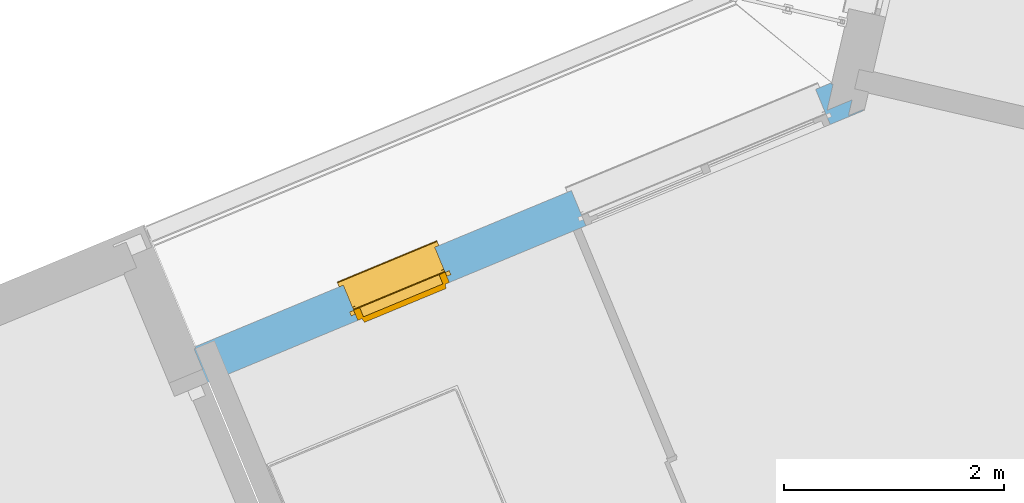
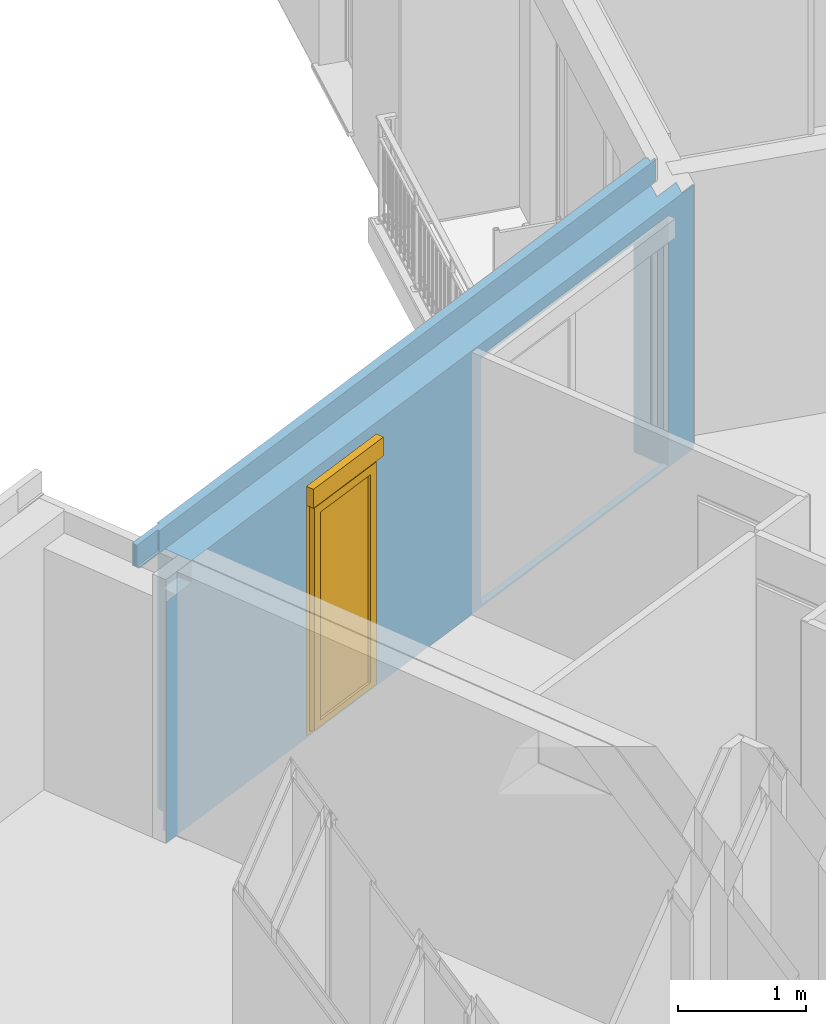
# One storey, part 14 of 90: 1 window, 2 openings, plus 1 element that does not belong to this part.
"""IFC2X3 building model written with IfcOpenShell, lengths in metres."""

from ifc_helpers import new_model, entity, si_unit, converted_unit, derived_unit, money_unit, direction, frame, origin_with_axes, place, context, subcontext, project, spatial, open_shell, faceted_brep, surface_model, material, material_list, type_object, element, fill, save


model = new_model("IFC2X3")

# Units and contexts
model_context = context("Model", 3, precision=1e-05, world=origin_with_axes(), true_north=direction((0.0, 1.0)))
body_context = subcontext(model_context, "Body", "Model", "MODEL_VIEW")
ifc_project = project(units=[si_unit("LENGTHUNIT", "METRE"), si_unit("AREAUNIT", "SQUARE_METRE"), si_unit("VOLUMEUNIT", "CUBIC_METRE"), converted_unit("PLANEANGLEUNIT", "DEGREE", entity("IfcPlaneAngleMeasure", 0.0174532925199), si_unit("PLANEANGLEUNIT", "RADIAN"), dimensions=[0, 0, 0, 0, 0, 0, 0]), si_unit("SOLIDANGLEUNIT", "STERADIAN"), money_unit("EUR"), converted_unit("TIMEUNIT", "Year", entity("IfcTimeMeasure", 31556926.0), si_unit("TIMEUNIT", "SECOND"), dimensions=[0, 0, 1, 0, 0, 0, 0]), si_unit("MASSUNIT", "GRAM", prefix="KILO"), si_unit("THERMODYNAMICTEMPERATUREUNIT", "DEGREE_CELSIUS"), si_unit("LUMINOUSINTENSITYUNIT", "LUMEN"), si_unit("ENERGYUNIT", "JOULE", prefix="MEGA"), derived_unit("THERMALCONDUCTANCEUNIT", [(si_unit("POWERUNIT", "WATT"), 1), (si_unit("LENGTHUNIT", "METRE"), -1), (si_unit("THERMODYNAMICTEMPERATUREUNIT", "KELVIN"), -1)]), derived_unit("SPECIFICHEATCAPACITYUNIT", [(si_unit("ENERGYUNIT", "JOULE"), 1), (si_unit("MASSUNIT", "GRAM", prefix="KILO"), -1), (si_unit("THERMODYNAMICTEMPERATUREUNIT", "KELVIN"), -1)]), derived_unit("MASSDENSITYUNIT", [(si_unit("MASSUNIT", "GRAM", prefix="KILO"), 1), (si_unit("VOLUMEUNIT", "CUBIC_METRE"), -1)])], contexts=[model_context])

# Site, building, storey
site_placement = place(None, origin_with_axes())
site = spatial("IfcSite", under=ifc_project, at=site_placement, Name="Site", CompositionType="ELEMENT")
building_placement = place(site_placement, origin_with_axes())
building = spatial("IfcBuilding", under=site, at=building_placement, Name="Bâtiment", CompositionType="ELEMENT")
storey_placement = place(building_placement, frame((0.0, 0.0, 2.72), z_axis=(0.0, 0.0, 1.0), x_axis=(1.0, 0.0, 0.0)))
storey = spatial("IfcBuildingStorey", under=building, at=storey_placement, Name="R+1", CompositionType="ELEMENT", Elevation=2.72)

# Wall, openings, window
ifc_material_1 = material(Name="Finition int - Plaque de plâtre")
ifc_material_2 = material(Name="Isolation - Polystyrène extrudé")
ifc_material_3 = material(Name="Bloc ELITHERM")
ifc_material_4 = material(Name="Isolation - Polystyrène expansé")
ifc_material_5 = material(Name="Mortier")
ifc_material_6 = material(Name="Béton cellulaire")
ifc_material_7 = material(Name="Finition ext - Crépis")
ifc_material_list = material_list([ifc_material_1, ifc_material_2, ifc_material_3, ifc_material_4, ifc_material_5, ifc_material_6, ifc_material_7])
wall_type = type_object("IfcWallType", Name="Mur ALKERN + planelle 21 345 x 2720", PredefinedType="USERDEFINED")
wall_placement = place(storey_placement, frame((-19.7780456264, -12.7581307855, 0.0), z_axis=(0.0, 0.0, 1.0), x_axis=(-0.923701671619, -0.383112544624, 0.0)))
wall = element("IfcWall", 1, at=wall_placement, inside=storey, type_object=wall_type, material=ifc_material_list, Name="Mue bloc ALKERN isolé", ObjectType="SOLIDWALL", context=body_context, shape_type="Brep", body=[
    faceted_brep([(-0.165315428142, 0.34499998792, 2.51), (6.27230078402, 0.344999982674, 2.51000000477), (6.27230078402, 0.344999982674, 2.3), (6.34030078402, 0.344999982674, 2.3), (6.59230079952, 0.344999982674, 2.3), (6.59230079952, 0.344999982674, 0.0), (-0.165315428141, 0.344999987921, 0.0), (2.55854389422, 0.344999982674, 2.22), (2.55854389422, 0.344999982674, 2.4), (0.158543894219, 0.344999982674, 2.4), (0.158543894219, 0.344999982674, 2.22), (0.158543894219, 0.344999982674, 0.02), (2.55854389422, 0.344999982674, 0.02), (4.80086941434, 0.344999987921, 2.22), (4.80086941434, 0.344999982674, 2.4), (3.90086941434, 0.344999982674, 2.4), (3.90086941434, 0.344999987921, 2.22), (3.90086941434, 0.344999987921, 0.02), (4.80086941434, 0.344999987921, 0.02), (-0.172454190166, 0.335000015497, 2.51), (6.27230078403, 0.335000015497, 2.51000000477), (6.27230078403, 0.335000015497, 2.3), (6.34030078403, 0.335000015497, 2.3), (6.59230079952, 0.335000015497, 2.3), (6.59230079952, 0.335000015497, 0.0), (-0.172454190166, 0.335000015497, 0.0), (2.55854389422, 0.335000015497, 2.22), (2.55854389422, 0.335000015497, 2.4), (0.158543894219, 0.335000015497, 2.4), (0.158543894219, 0.335000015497, 2.22), (0.158543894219, 0.335000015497, 0.02), (2.55854389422, 0.335000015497, 0.02), (4.80086941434, 0.335000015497, 2.22), (4.80086941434, 0.335000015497, 2.4), (3.90086941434, 0.335000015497, 2.4), (3.90086941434, 0.335000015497, 2.22), (3.90086941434, 0.335000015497, 0.02), (4.80086941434, 0.335000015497, 0.02)], [[[0, 1, 2, 3, 4, 5, 6], [7, 8, 9, 10, 11, 12], [13, 14, 15, 16, 17, 18]], [[1, 0, 19, 20]], [[2, 1, 20, 21]], [[22, 3, 2, 21]], [[4, 3, 22, 23]], [[24, 5, 4, 23]], [[24, 25, 6, 5]], [[6, 25, 19, 0]], [[26, 27, 8, 7]], [[27, 28, 9, 8]], [[28, 29, 10, 9]], [[30, 11, 10, 29]], [[31, 12, 11, 30]], [[12, 31, 26, 7]], [[14, 13, 32, 33]], [[15, 14, 33, 34]], [[16, 15, 34, 35]], [[16, 35, 36, 17]], [[17, 36, 37, 18]], [[32, 13, 18, 37]], [[25, 24, 23, 22, 21, 20, 19], [27, 26, 31, 30, 29, 28], [33, 32, 37, 36, 35, 34]]]),
    faceted_brep([(3.90086941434, 0.245, 0.02), (3.90086941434, 0.286, 0.02), (3.90086941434, 0.335000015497, 0.02), (3.90086941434, 0.335000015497, 2.22), (3.90086941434, 0.245, 2.22), (3.90086941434, 0.215000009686, 0.02), (3.90086941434, 0.215000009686, 0.0), (3.90086941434, 0.286, 0.0), (4.80086941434, 0.286, 0.02), (4.80086941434, 0.335000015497, 0.02), (6.27230078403, 0.335000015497, 2.3), (6.34030078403, 0.335000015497, 2.3), (6.47230079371, 0.335000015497, 2.3), (6.47230079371, 0.335000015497, 0.0), (-0.0250141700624, 0.335000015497, 0.0), (-0.0250141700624, 0.335000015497, 2.51), (6.27230078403, 0.335000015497, 2.51000000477), (0.158543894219, 0.335000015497, 2.22), (0.158543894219, 0.335000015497, 0.02), (2.55854389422, 0.335000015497, 0.02), (2.55854389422, 0.335000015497, 2.22), (2.55854389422, 0.335000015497, 2.4), (0.158543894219, 0.335000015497, 2.4), (4.80086941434, 0.335000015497, 2.22), (4.80086941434, 0.335000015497, 2.4), (3.90086941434, 0.335000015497, 2.4), (3.90086941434, 0.215, 2.4), (3.90086941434, 0.215, 2.22), (4.80086941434, 0.215, 2.4), (4.80086941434, 0.215, 2.22), (4.80086941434, 0.215000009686, 0.02), (4.80086941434, 0.215000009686, 0.0), (6.47230079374, 0.215000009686, 0.0), (6.47230079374, 0.215000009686, 2.3), (6.34030078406, 0.215000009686, 2.3), (6.27230078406, 0.215000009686, 2.3), (6.27230078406, 0.215000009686, 2.51000000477), (-0.110679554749, 0.215000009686, 2.51), (-0.110679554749, 0.215000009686, 0.0), (0.158543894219, 0.215000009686, 0.0), (0.158543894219, 0.215000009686, 0.02), (0.158543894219, 0.215, 2.22), (0.158543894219, 0.215, 2.4), (2.55854389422, 0.215, 2.4), (2.55854389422, 0.215, 2.22), (2.55854389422, 0.215000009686, 0.02), (2.55854389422, 0.215000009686, 0.0), (2.55854389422, 0.286, 0.0), (0.158543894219, 0.286, 0.0), (4.80086941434, 0.286, 0.0), (4.80086941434, 0.245, 0.02), (4.80086941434, 0.245, 2.22), (0.158543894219, 0.245, 2.22), (0.158543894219, 0.245, 0.02), (0.158543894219, 0.286, 0.02), (2.55854389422, 0.286, 0.02), (2.55854389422, 0.245, 0.02), (2.55854389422, 0.245, 2.22)], [[[0, 1, 2, 3, 4]], [[1, 0, 5, 6, 7]], [[1, 8, 9, 2]], [[10, 11, 12, 13, 14, 15, 16], [17, 18, 19, 20, 21, 22], [3, 2, 9, 23, 24, 25]], [[26, 27, 4, 3, 25]], [[5, 0, 4, 27]], [[6, 5, 27, 26, 28, 29, 30, 31, 32, 33, 34, 35, 36, 37, 38, 39, 40, 41, 42, 43, 44, 45, 46]], [[7, 6, 46, 47, 48, 39, 38, 14, 13, 32, 31, 49]], [[8, 1, 7, 49]], [[8, 50, 51, 23, 9]], [[34, 11, 10, 35]], [[12, 11, 34, 33]], [[32, 13, 12, 33]], [[14, 38, 37, 15]], [[16, 15, 37, 36]], [[10, 16, 36, 35]], [[17, 52, 53, 54, 18]], [[54, 55, 19, 18]], [[20, 19, 55, 56, 57]], [[21, 20, 57, 44, 43]], [[21, 43, 42, 22]], [[17, 22, 42, 41, 52]], [[51, 29, 28, 24, 23]], [[24, 28, 26, 25]], [[50, 30, 29, 51]], [[50, 8, 49, 31, 30]], [[39, 48, 54, 53, 40]], [[40, 53, 52, 41]], [[56, 45, 44, 57]], [[46, 45, 56, 55, 47]], [[55, 54, 48, 47]]]),
    faceted_brep([(3.90086941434, 0.214999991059, 0.02), (3.90086941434, 0.214999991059, 0.0), (2.55854389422, 0.214999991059, 0.0), (2.55854389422, 0.214999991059, 0.02), (2.55854389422, 0.214999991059, 2.22), (0.158543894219, 0.214999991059, 2.22), (0.158543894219, 0.214999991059, 0.02), (0.158543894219, 0.214999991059, 0.0), (0.135053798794, 0.214999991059, 0.0), (0.135053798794, 0.214999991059, 2.50999999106), (6.27230078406, 0.214999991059, 2.51000000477), (6.27230078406, 0.214999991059, 0.0), (4.80086941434, 0.214999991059, 0.0), (4.80086941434, 0.214999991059, 0.02), (4.80086941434, 0.214999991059, 2.22), (3.90086941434, 0.214999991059, 2.22), (3.90086941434, 0.015, 0.02), (3.90086941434, 0.015, 0.0), (3.90086941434, 0.015, 2.22), (2.55854389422, 0.015, 0.0), (2.55854389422, 0.015, 0.02), (2.55854389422, 0.015, 2.22), (0.158543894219, 0.015, 2.22), (0.158543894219, 0.015, 0.02), (0.158543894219, 0.015, 0.0), (-0.00772182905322, 0.015, 0.0), (-0.00772182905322, 0.015, 2.50999999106), (0.0408218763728, 0.0829999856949, 2.50999999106), (6.27230078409, 0.0829999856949, 2.51000000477), (6.27230078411, 0.015, 0.0), (6.27230078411, 0.015, 2.51000000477), (4.80086941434, 0.015, 0.0), (4.80086941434, 0.015, 0.02), (4.80086941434, 0.015, 2.22)], [[[0, 1, 2, 3, 4, 5, 6, 7, 8, 9, 10, 11, 12, 13, 14, 15]], [[16, 17, 1, 0, 15, 18]], [[1, 17, 19, 2]], [[3, 2, 19, 20, 21, 4]], [[22, 5, 4, 21]], [[23, 24, 7, 6, 5, 22]], [[25, 8, 7, 24]], [[9, 8, 25, 26, 27]], [[9, 27, 28, 10]], [[29, 11, 10, 28, 30]], [[31, 12, 11, 29]], [[13, 12, 31, 32, 33, 14]], [[14, 33, 18, 15]], [[17, 16, 18, 33, 32, 31, 29, 30, 26, 25, 24, 23, 22, 21, 20, 19]], [[27, 26, 30, 28]]]),
    faceted_brep([(6.34029502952, 0.0630000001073, 2.72), (6.34029493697, 0.083000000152, 2.72), (-0.0181541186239, 0.083000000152, 2.72), (-0.0324316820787, 0.0630000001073, 2.72), (6.34029493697, 0.083000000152, 2.51999999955), (6.34029502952, 0.0630000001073, 2.51999999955), (-0.0181541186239, 0.083000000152, 2.51999999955), (-0.0324316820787, 0.0630000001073, 2.51999999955)], [[[0, 1, 2, 3]], [[4, 1, 0, 5]], [[1, 4, 6, 2]], [[3, 2, 6, 7]], [[5, 0, 3, 7]], [[4, 5, 7, 6]]]),
    faceted_brep([(0.0408218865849, 0.083, 2.52), (-0.00772182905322, 0.015, 2.52), (6.60230075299, 0.015, 2.52), (6.60230075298, 0.083, 2.52), (-0.00772182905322, 0.015, 2.51), (0.0408218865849, 0.083, 2.51), (6.60230075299, 0.015, 2.51), (6.60230075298, 0.083, 2.51)], [[[0, 1, 2, 3]], [[4, 1, 0, 5]], [[1, 4, 6, 2]], [[6, 7, 3, 2]], [[5, 0, 3, 7]], [[4, 5, 7, 6]]]),
    faceted_brep([(0.0265443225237, 0.0629999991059, 2.72), (-0.00772182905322, 0.015, 2.72), (6.60230075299, 0.015, 2.71999999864), (6.60230075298, 0.0629999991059, 2.71999999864), (-0.00772182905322, 0.015, 2.51999999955), (0.0265443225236, 0.0629999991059, 2.51999999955), (6.60230075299, 0.015, 2.51999999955), (6.60230075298, 0.0629999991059, 2.51999999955)], [[[0, 1, 2, 3]], [[4, 1, 0, 5]], [[1, 4, 6, 2]], [[6, 7, 3, 2]], [[5, 0, 3, 7]], [[4, 5, 7, 6]]]),
    faceted_brep([(3.90086941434, 0.0149999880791, 0.02), (3.90086941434, 0.0149999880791, 0.0), (2.55854389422, 0.0149999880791, 0.0), (2.55854389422, 0.0149999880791, 0.02), (2.55854389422, 0.0149999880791, 2.22), (0.158543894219, 0.0149999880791, 2.22), (0.158543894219, 0.0149999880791, 0.02), (0.158543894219, 0.0149999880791, 0.0), (0.0107081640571, 0.0149999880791, 0.0), (0.0107081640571, 0.0149999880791, 2.72), (6.25730078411, 0.0149999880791, 2.72), (6.25730078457, 0.0149999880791, 0.0), (4.80086941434, 0.0149999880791, 0.0), (4.80086941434, 0.0149999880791, 0.02), (4.80086941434, 0.0149999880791, 2.22), (3.90086941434, 0.0149999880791, 2.22), (3.90086941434, 0.0, 0.02), (3.90086941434, 0.0, 0.0), (3.90086941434, 0.0, 2.22), (2.55854389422, 0.0, 0.0), (2.55854389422, 0.0, 0.02), (2.55854389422, 0.0, 2.22), (0.158543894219, 0.0, 2.22), (0.158543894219, 0.0, 0.02), (0.158543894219, 0.0, 0.0), (0.0, 0.0, 0.0), (0.0, 0.0, 2.72), (6.25730078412, 0.0, 2.72), (6.25730078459, 0.0, 0.0), (4.80086941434, 0.0, 0.0), (4.80086941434, 0.0, 0.02), (4.80086941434, 0.0, 2.22)], [[[0, 1, 2, 3, 4, 5, 6, 7, 8, 9, 10, 11, 12, 13, 14, 15]], [[16, 17, 1, 0, 15, 18]], [[1, 17, 19, 2]], [[3, 2, 19, 20, 21, 4]], [[22, 5, 4, 21]], [[23, 24, 7, 6, 5, 22]], [[25, 8, 7, 24]], [[25, 26, 9, 8]], [[10, 9, 26, 27]], [[11, 10, 27, 28]], [[29, 12, 11, 28]], [[13, 12, 29, 30, 31, 14]], [[14, 31, 18, 15]], [[17, 16, 18, 31, 30, 29, 28, 27, 26, 25, 24, 23, 22, 21, 20, 19]]]),
])
opening_1_placement = place(wall_placement, frame((1.35854389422, 0.0, 0.02), z_axis=(0.0, 0.0, 1.0), x_axis=(1.0, 0.0, 0.0)))
element("IfcOpeningElement", 2, at=opening_1_placement, cuts=wall, Name="MEN 50", context=body_context, shape_type="Brep", body=[
    faceted_brep([(-1.2, 0.83499998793, 0.0), (1.2, 0.83499998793, 0.0), (1.2, 0.245, 0.0), (-1.2, 0.245, 0.0), (-1.2, 0.83499998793, 2.2), (1.2, 0.83499998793, 2.2), (1.2, 0.245, 2.2), (-1.2, 0.245, 2.2)], [[[0, 1, 2, 3]], [[0, 4, 5, 1]], [[1, 5, 6, 2]], [[3, 2, 6, 7]], [[4, 0, 3, 7]], [[5, 4, 7, 6]]]),
    faceted_brep([(-1.2, -0.34499998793, 0.0), (-1.2, -0.34499998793, 2.2), (-1.2, 0.245, 2.2), (-1.2, 0.245, 0.0), (1.2, -0.34499998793, 0.0), (1.2, -0.34499998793, 2.2), (1.2, 0.245, 2.2), (1.2, 0.245, 0.0)], [[[0, 1, 2, 3]], [[0, 4, 5, 1]], [[1, 5, 6, 2]], [[3, 2, 6, 7]], [[4, 0, 3, 7]], [[5, 4, 7, 6]]]),
    faceted_brep([(-1.2, -0.34499998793, 0.0), (-1.2, -0.34499998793, 2.2), (-1.2, 0.245, 2.2), (-1.2, 0.245, 0.0), (1.2, -0.34499998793, 0.0), (1.2, -0.34499998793, 2.2), (1.2, 0.245, 2.2), (1.2, 0.245, 0.0)], [[[0, 1, 2, 3]], [[0, 4, 5, 1]], [[1, 5, 6, 2]], [[3, 2, 6, 7]], [[4, 0, 3, 7]], [[5, 4, 7, 6]]]),
    faceted_brep([(-1.2, 0.80499998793, 2.2), (1.2, 0.80499998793, 2.2), (1.2, 0.215, 2.2), (-1.2, 0.215, 2.2), (-1.2, 0.80499998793, 2.38), (1.2, 0.80499998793, 2.38), (1.2, 0.215, 2.38), (-1.2, 0.215, 2.38)], [[[0, 1, 2, 3]], [[0, 4, 5, 1]], [[1, 5, 6, 2]], [[3, 2, 6, 7]], [[4, 0, 3, 7]], [[5, 4, 7, 6]]]),
    faceted_brep([(-1.2, -0.30399998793, 0.0), (1.2, -0.30399998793, 0.0), (1.2, 0.286, 0.0), (-1.2, 0.286, 0.0), (-1.2, -0.30399998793, -0.06), (1.2, -0.30399998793, -0.06), (1.2, 0.286, -0.06), (-1.2, 0.286, -0.06)], [[[0, 1, 2, 3]], [[0, 4, 5, 1]], [[1, 5, 6, 2]], [[3, 2, 6, 7]], [[4, 0, 3, 7]], [[5, 4, 7, 6]]]),
])
opening_2_placement = place(wall_placement, frame((4.35086941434, 0.0, 0.02), z_axis=(0.0, 0.0, 1.0), x_axis=(1.0, 0.0, 0.0)))
opening_2 = element("IfcOpeningElement", 3, at=opening_2_placement, cuts=wall, Name="MEN 51", context=body_context, shape_type="Brep", body=[
    faceted_brep([(0.45, 0.245, 0.0), (-0.45, 0.245, 0.0), (-0.45, 0.83499998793, 0.0), (0.45, 0.83499998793, 0.0), (0.45, 0.245, 2.2), (-0.45, 0.245, 2.2), (-0.45, 0.83499998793, 2.2), (0.45, 0.83499998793, 2.2)], [[[0, 1, 2, 3]], [[0, 4, 5, 1]], [[1, 5, 6, 2]], [[3, 2, 6, 7]], [[4, 0, 3, 7]], [[5, 4, 7, 6]]]),
    faceted_brep([(0.45, 0.245, 0.0), (0.45, 0.245, 2.2), (0.45, -0.34499998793, 2.2), (0.45, -0.34499998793, 0.0), (-0.45, 0.245, 0.0), (-0.45, 0.245, 2.2), (-0.45, -0.34499998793, 2.2), (-0.45, -0.34499998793, 0.0)], [[[0, 1, 2, 3]], [[0, 4, 5, 1]], [[1, 5, 6, 2]], [[3, 2, 6, 7]], [[4, 0, 3, 7]], [[5, 4, 7, 6]]]),
    faceted_brep([(0.45, 0.245, 0.0), (0.45, 0.245, 2.2), (0.45, -0.34499998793, 2.2), (0.45, -0.34499998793, 0.0), (-0.45, 0.245, 0.0), (-0.45, 0.245, 2.2), (-0.45, -0.34499998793, 2.2), (-0.45, -0.34499998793, 0.0)], [[[0, 1, 2, 3]], [[0, 4, 5, 1]], [[1, 5, 6, 2]], [[3, 2, 6, 7]], [[4, 0, 3, 7]], [[5, 4, 7, 6]]]),
    faceted_brep([(0.45, 0.215, 2.2), (-0.45, 0.215, 2.2), (-0.45, 0.80499998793, 2.2), (0.45, 0.80499998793, 2.2), (0.45, 0.215, 2.38), (-0.45, 0.215, 2.38), (-0.45, 0.80499998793, 2.38), (0.45, 0.80499998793, 2.38)], [[[0, 1, 2, 3]], [[0, 4, 5, 1]], [[1, 5, 6, 2]], [[3, 2, 6, 7]], [[4, 0, 3, 7]], [[5, 4, 7, 6]]]),
    faceted_brep([(0.45, 0.286, 0.0), (-0.45, 0.286, 0.0), (-0.45, -0.30399998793, 0.0), (0.45, -0.30399998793, 0.0), (0.45, 0.286, -0.06), (-0.45, 0.286, -0.06), (-0.45, -0.30399998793, -0.06), (0.45, -0.30399998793, -0.06)], [[[0, 1, 2, 3]], [[0, 4, 5, 1]], [[1, 5, 6, 2]], [[3, 2, 6, 7]], [[4, 0, 3, 7]], [[5, 4, 7, 6]]]),
])
window_style = type_object("IfcWindowStyle", Name="Baie générique 2017 v2", ConstructionType="NOTDEFINED", OperationType="NOTDEFINED", ParameterTakesPrecedence=False, Sizeable=False)
window_placement = place(opening_2_placement, frame((-0.45, 0.0, 0.0), z_axis=(0.0, 0.0, 1.0), x_axis=(1.0, 0.0, 0.0)))
window = element("IfcWindow", 4, at=window_placement, inside=storey, type_object=window_style, Name="MEN 51", ObjectType="WINDOW", OverallHeight=2.2, OverallWidth=0.9, context=body_context, shape_type="SurfaceModel", body=[
    faceted_brep([(0.9, 0.345, 0.0), (0.9, 0.245, 0.0), (0.0, 0.245, 0.0), (0.0, 0.345, 0.0), (0.9, 0.345, 2.2), (0.9, 0.245, 2.2), (0.0, 0.245, 2.2), (0.84, 0.245, 0.05), (0.06, 0.245, 0.05), (0.06, 0.245, 2.15), (0.84, 0.245, 2.15), (0.0, 0.345, 2.2), (0.84, 0.345, 0.05), (0.84, 0.345, 2.15), (0.06, 0.345, 2.15), (0.06, 0.345, 0.05)], [[[0, 1, 2, 3]], [[4, 5, 1, 0]], [[1, 5, 6, 2], [7, 8, 9, 10]], [[3, 2, 6, 11]], [[0, 3, 11, 4], [12, 13, 14, 15]], [[11, 6, 5, 4]], [[15, 8, 7, 12]], [[14, 9, 8, 15]], [[13, 10, 9, 14]], [[12, 7, 10, 13]]]),
    faceted_brep([(0.13, 0.335, 2.08), (0.13, 0.335, 0.1), (0.13, 0.385, 0.1), (0.13, 0.385, 2.08), (0.06, 0.335, 2.15), (0.06, 0.335, 0.05), (0.84, 0.335, 0.05), (0.84, 0.335, 2.15), (0.77, 0.335, 2.08), (0.77, 0.335, 0.1), (0.77, 0.385, 0.1), (0.049987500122, 0.385000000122, 0.039987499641), (0.049987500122, 0.385000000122, 2.16001250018), (0.850012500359, 0.385000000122, 2.16001250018), (0.850012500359, 0.385000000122, 0.039987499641), (0.77, 0.385, 2.08), (0.06, 0.34505, 0.05), (0.06, 0.34505, 2.15), (0.84, 0.34505, 0.05), (0.84, 0.34505, 2.15), (0.04, 0.34505, 0.03), (0.04, 0.34505, 2.17), (0.86, 0.34505, 2.17), (0.86, 0.34505, 0.03)], [[[0, 1, 2, 3]], [[4, 5, 6, 7], [0, 8, 9, 1]], [[9, 10, 2, 1]], [[11, 12, 13, 14], [2, 10, 15, 3]], [[8, 0, 3, 15]], [[16, 5, 4, 17]], [[18, 6, 5, 16]], [[19, 7, 6, 18]], [[17, 4, 7, 19]], [[8, 15, 10, 9]], [[12, 11, 20, 21]], [[13, 12, 21, 22]], [[14, 13, 22, 23]], [[11, 14, 23, 20]], [[21, 20, 23, 22], [19, 18, 16, 17]]]),
    surface_model("IfcShellBasedSurfaceModel", [(0.84, 0.385, 0.05), (0.84, 0.385, 2.15), (0.84, 0.36, 2.15), (0.84, 0.36, 0.05)], [open_shell([[[0, 1, 2, 3]]])]),
    surface_model("IfcShellBasedSurfaceModel", [(0.06, 0.385, 0.05), (0.06, 0.385, 2.15), (0.06, 0.36, 2.15), (0.06, 0.36, 0.05)], [open_shell([[[0, 1, 2, 3]]])]),
    surface_model("IfcShellBasedSurfaceModel", [(0.84, 0.385, 0.05), (0.06, 0.385, 0.05), (0.06, 0.36, 0.05), (0.84, 0.36, 0.05)], [open_shell([[[0, 1, 2, 3]]])]),
    surface_model("IfcShellBasedSurfaceModel", [(0.84, 0.385, 2.15), (0.06, 0.385, 2.15), (0.06, 0.36, 2.15), (0.84, 0.36, 2.15)], [open_shell([[[0, 1, 2, 3]]])]),
    surface_model("IfcShellBasedSurfaceModel", [(0.84, 0.36, 0.05), (0.84, 0.36, 2.15), (0.84, 0.335, 2.15), (0.84, 0.335, 0.05)], [open_shell([[[0, 1, 2, 3]]])]),
    surface_model("IfcShellBasedSurfaceModel", [(0.06, 0.36, 0.05), (0.06, 0.36, 2.15), (0.06, 0.335, 2.15), (0.06, 0.335, 0.05)], [open_shell([[[0, 1, 2, 3]]])]),
    surface_model("IfcShellBasedSurfaceModel", [(0.84, 0.36, 0.05), (0.06, 0.36, 0.05), (0.06, 0.335, 0.05), (0.84, 0.335, 0.05)], [open_shell([[[0, 1, 2, 3]]])]),
    surface_model("IfcShellBasedSurfaceModel", [(0.84, 0.36, 2.15), (0.06, 0.36, 2.15), (0.06, 0.335, 2.15), (0.84, 0.335, 2.15)], [open_shell([[[0, 1, 2, 3]]])]),
    faceted_brep([(0.77, 0.3625, 0.1), (0.77, 0.3575, 0.1), (0.13, 0.3575, 0.1), (0.13, 0.3625, 0.1), (0.77, 0.3625, 2.08), (0.77, 0.3575, 2.08), (0.13, 0.3575, 2.08), (0.13, 0.3625, 2.08)], [[[0, 1, 2, 3]], [[4, 5, 1, 0]], [[1, 5, 6, 2]], [[3, 2, 6, 7]], [[0, 3, 7, 4]], [[7, 6, 5, 4]]]),
    faceted_brep([(0.9, 0.215, 0.0), (0.9, 0.215, 2.2), (0.875, 0.215, 2.2), (0.875, 0.215, 0.0), (0.9, 0.243, 0.0), (0.9, 0.243, 2.2), (0.875, 0.243, 2.2), (0.875, 0.241, 2.2), (0.898, 0.241, 2.2), (0.898, 0.217, 2.2), (0.875, 0.217, 2.2), (0.875, 0.217, 0.0), (0.898, 0.217, 0.0), (0.898, 0.241, 0.0), (0.875, 0.241, 0.0), (0.875, 0.243, 0.0)], [[[0, 1, 2, 3]], [[4, 5, 1, 0]], [[1, 5, 6, 7, 8, 9, 10, 2]], [[3, 2, 10, 11]], [[0, 3, 11, 12, 13, 14, 15, 4]], [[15, 6, 5, 4]], [[14, 7, 6, 15]], [[13, 8, 7, 14]], [[12, 9, 8, 13]], [[11, 10, 9, 12]]]),
    faceted_brep([(0.0, 0.215, 0.0), (0.025, 0.215, 0.0), (0.025, 0.215, 2.2), (0.0, 0.215, 2.2), (0.0, 0.243, 0.0), (0.025, 0.243, 0.0), (0.025, 0.241, 0.0), (0.002, 0.241, 0.0), (0.002, 0.217, 0.0), (0.025, 0.217, 0.0), (0.025, 0.217, 2.2), (0.002, 0.217, 2.2), (0.002, 0.241, 2.2), (0.025, 0.241, 2.2), (0.025, 0.243, 2.2), (0.0, 0.243, 2.2)], [[[0, 1, 2, 3]], [[0, 4, 5, 6, 7, 8, 9, 1]], [[1, 9, 10, 2]], [[3, 2, 10, 11, 12, 13, 14, 15]], [[4, 0, 3, 15]], [[5, 4, 15, 14]], [[6, 5, 14, 13]], [[7, 6, 13, 12]], [[8, 7, 12, 11]], [[9, 8, 11, 10]]]),
    faceted_brep([(0.002, 0.217, 2.2), (0.002, 0.217, 2.378), (0.898, 0.217, 2.378), (0.898, 0.217, 2.2), (0.002, 0.215, 2.2), (0.002, 0.215, 2.38), (0.002, 0.415, 2.38), (0.002, 0.415, 2.2), (0.002, 0.413, 2.2), (0.002, 0.413, 2.378), (0.898, 0.413, 2.378), (0.898, 0.413, 2.2), (0.898, 0.415, 2.2), (0.898, 0.415, 2.38), (0.898, 0.215, 2.38), (0.898, 0.215, 2.2)], [[[0, 1, 2, 3]], [[0, 4, 5, 6, 7, 8, 9, 1]], [[1, 9, 10, 2]], [[3, 2, 10, 11, 12, 13, 14, 15]], [[4, 0, 3, 15]], [[5, 4, 15, 14]], [[6, 5, 14, 13]], [[7, 6, 13, 12]], [[8, 7, 12, 11]], [[9, 8, 11, 10]]]),
    faceted_brep([(0.002, 0.317469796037, 2.27436337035), (0.002, 0.300549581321, 2.27050144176), (0.002, 0.286980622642, 2.28132232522), (0.002, 0.286980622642, 2.29867767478), (0.002, 0.300549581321, 2.30949855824), (0.002, 0.317469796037, 2.30563662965), (0.002, 0.325, 2.29), (0.898, 0.317469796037, 2.27436337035), (0.898, 0.300549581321, 2.27050144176), (0.898, 0.286980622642, 2.28132232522), (0.898, 0.286980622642, 2.29867767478), (0.898, 0.300549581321, 2.30949855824), (0.898, 0.317469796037, 2.30563662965), (0.898, 0.325, 2.29)], [[[0, 1, 2, 3, 4, 5, 6]], [[1, 0, 7, 8]], [[2, 1, 8, 9]], [[3, 2, 9, 10]], [[4, 3, 10, 11]], [[5, 4, 11, 12]], [[6, 5, 12, 13]], [[0, 6, 13, 7]], [[7, 13, 12, 11, 10, 9, 8]]]),
    faceted_brep([(0.012, 0.375275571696, 2.25615706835), (0.012, 0.353632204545, 2.22901714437), (0.012, 0.322356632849, 2.21395562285), (0.012, 0.287643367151, 2.21395562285), (0.012, 0.256367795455, 2.22901714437), (0.012, 0.234724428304, 2.25615706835), (0.012, 0.227, 2.29), (0.012, 0.234724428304, 2.32384293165), (0.012, 0.256367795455, 2.35098285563), (0.012, 0.287643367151, 2.36604437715), (0.012, 0.322356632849, 2.36604437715), (0.012, 0.353632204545, 2.35098285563), (0.012, 0.375275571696, 2.32384293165), (0.012, 0.383, 2.29), (0.888, 0.375275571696, 2.25615706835), (0.888, 0.353632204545, 2.22901714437), (0.888, 0.322356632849, 2.21395562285), (0.888, 0.287643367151, 2.21395562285), (0.888, 0.256367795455, 2.22901714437), (0.888, 0.234724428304, 2.25615706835), (0.888, 0.227, 2.29), (0.888, 0.234724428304, 2.32384293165), (0.888, 0.256367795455, 2.35098285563), (0.888, 0.287643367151, 2.36604437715), (0.888, 0.322356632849, 2.36604437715), (0.888, 0.353632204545, 2.35098285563), (0.888, 0.375275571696, 2.32384293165), (0.888, 0.383, 2.29)], [[[0, 1, 2, 3, 4, 5, 6, 7, 8, 9, 10, 11, 12, 13]], [[1, 0, 14, 15]], [[2, 1, 15, 16]], [[3, 2, 16, 17]], [[4, 3, 17, 18]], [[5, 4, 18, 19]], [[6, 5, 19, 20]], [[7, 6, 20, 21]], [[8, 7, 21, 22]], [[9, 8, 22, 23]], [[10, 9, 23, 24]], [[11, 10, 24, 25]], [[12, 11, 25, 26]], [[13, 12, 26, 27]], [[0, 13, 27, 14]], [[14, 27, 26, 25, 24, 23, 22, 21, 20, 19, 18, 17, 16, 15]]]),
    faceted_brep([(0.0, 0.415, 2.2), (0.0, 0.415, 2.38), (0.002, 0.415, 2.38), (0.002, 0.415, 2.2), (0.0, 0.215, 2.2), (0.0, 0.215, 2.38), (0.002, 0.215, 2.38), (0.002, 0.215, 2.2)], [[[0, 1, 2, 3]], [[0, 4, 5, 1]], [[1, 5, 6, 2]], [[3, 2, 6, 7]], [[4, 0, 3, 7]], [[5, 4, 7, 6]]]),
    faceted_brep([(0.898, 0.415, 2.2), (0.898, 0.415, 2.38), (0.9, 0.415, 2.38), (0.9, 0.415, 2.2), (0.898, 0.215, 2.2), (0.898, 0.215, 2.38), (0.9, 0.215, 2.38), (0.9, 0.215, 2.2)], [[[0, 1, 2, 3]], [[0, 4, 5, 1]], [[1, 5, 6, 2]], [[3, 2, 6, 7]], [[4, 0, 3, 7]], [[5, 4, 7, 6]]]),
    faceted_brep([(0.002, 0.241, 2.2), (0.002, 0.413, 2.2), (0.898, 0.413, 2.2), (0.898, 0.241, 2.2), (0.002, 0.241, 2.202), (0.002, 0.413, 2.202), (0.898, 0.413, 2.202), (0.898, 0.241, 2.202)], [[[0, 1, 2, 3]], [[0, 4, 5, 1]], [[1, 5, 6, 2]], [[3, 2, 6, 7]], [[4, 0, 3, 7]], [[5, 4, 7, 6]]]),
    faceted_brep([(0.012, 0.239, 2.2), (0.012, 0.239, 2.29), (0.888, 0.239, 2.29), (0.888, 0.239, 2.2), (0.012, 0.219, 2.2), (0.012, 0.219, 2.29), (0.888, 0.219, 2.29), (0.888, 0.219, 2.2)], [[[0, 1, 2, 3]], [[1, 0, 4, 5]], [[2, 1, 5, 6]], [[3, 2, 6, 7]], [[4, 0, 3, 7]], [[5, 4, 7, 6]]]),
    faceted_brep([(0.0, 0.243320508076, -0.01), (0.9, 0.243320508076, -0.01), (0.9, 0.245, -0.00373205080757), (0.94, 0.245, -0.00373205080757), (0.94, 0.246, 0.0), (-0.04, 0.246, 0.0), (-0.04, 0.245, -0.00373205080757), (0.0, 0.245, -0.00373205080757), (0.0, 0.236, -0.0173205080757), (0.9, 0.236, -0.0173205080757), (0.9, 0.0, -0.02), (0.9, 0.0, -0.06), (0.9, 0.245, -0.06), (0.9, 0.226, -0.02), (0.94, 0.245, -0.06), (0.94, 0.286, -0.06), (0.94, 0.286, 0.0), (-0.04, 0.286, 0.0), (-0.04, 0.286, -0.06), (-0.04, 0.245, -0.06), (0.0, 0.245, -0.06), (0.0, 0.0, -0.06), (0.0, 0.0, -0.02), (0.0, 0.226, -0.02), (0.94, 0.0, -0.02), (0.94, 0.0, -0.06), (0.94, -0.03, -0.06), (-0.04, -0.03, -0.06), (-0.04, 0.0, -0.06), (-0.04, 0.0, -0.02), (-0.04, -0.04, -0.02), (0.94, -0.04, -0.02), (0.94, -0.05, -0.03), (0.94, -0.05, -0.06), (0.94, -0.04, -0.06), (0.94, -0.04, -0.05), (0.94, -0.03, -0.05), (0.94, -0.0470710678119, -0.0229289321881), (-0.04, -0.03, -0.05), (-0.04, -0.04, -0.05), (-0.04, -0.04, -0.06), (-0.04, -0.05, -0.06), (-0.04, -0.05, -0.03), (-0.04, -0.0470710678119, -0.0229289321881)], [[[0, 1, 2, 3, 4, 5, 6, 7]], [[8, 9, 1, 0]], [[10, 11, 12, 2, 1, 9, 13]], [[3, 2, 12, 14]], [[4, 3, 14, 15, 16]], [[16, 17, 5, 4]], [[6, 5, 17, 18, 19]], [[19, 20, 7, 6]], [[7, 20, 21, 22, 23, 8, 0]], [[23, 13, 9, 8]], [[10, 24, 25, 11]], [[21, 20, 19, 18, 15, 14, 12, 11, 25, 26, 27, 28]], [[22, 29, 30, 31, 24, 10, 13, 23]], [[15, 18, 17, 16]], [[22, 21, 28, 29]], [[32, 33, 34, 35, 36, 26, 25, 24, 31, 37]], [[36, 38, 27, 26]], [[28, 27, 38, 39, 40, 41, 42, 43, 30, 29]], [[31, 30, 43, 37]], [[32, 42, 41, 33]], [[33, 41, 40, 34]], [[34, 40, 39, 35]], [[35, 39, 38, 36]], [[37, 43, 42, 32]]]),
])
fill(opening_2, window)

save(model, "model.ifc")
